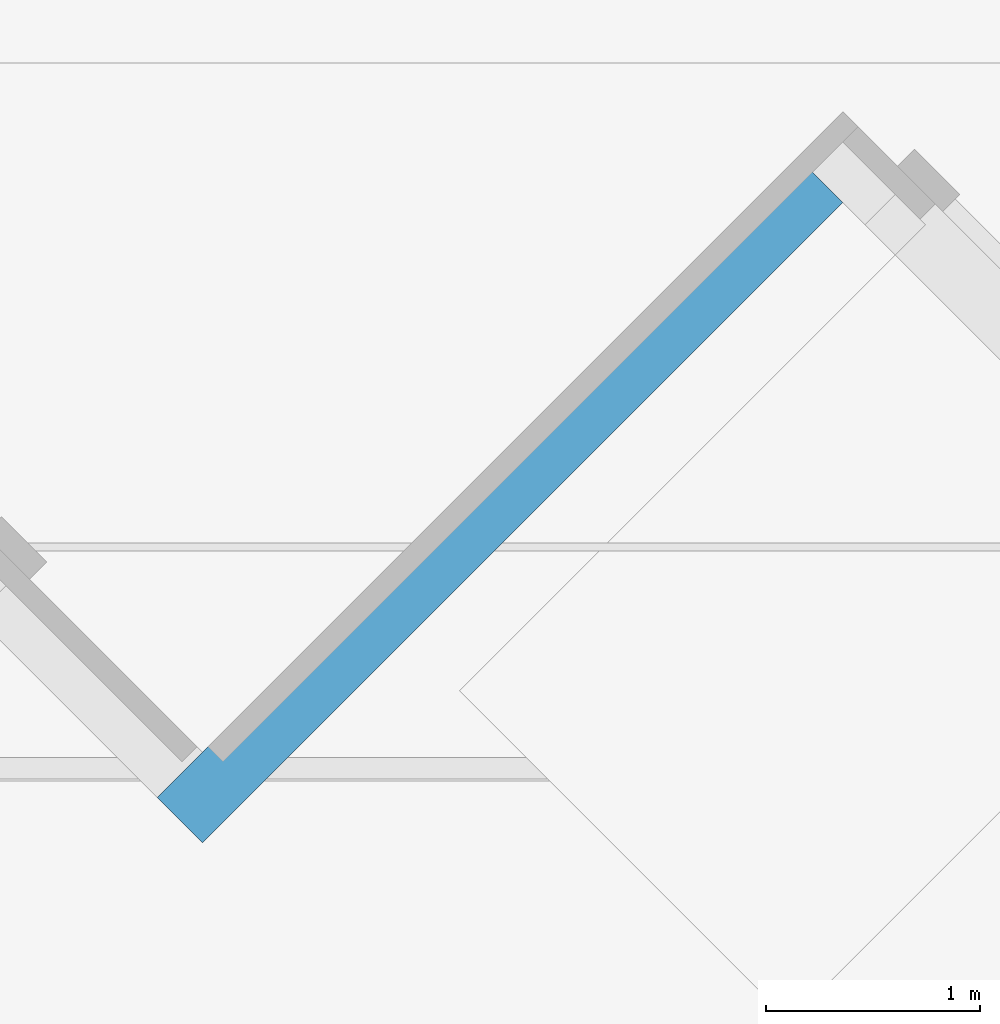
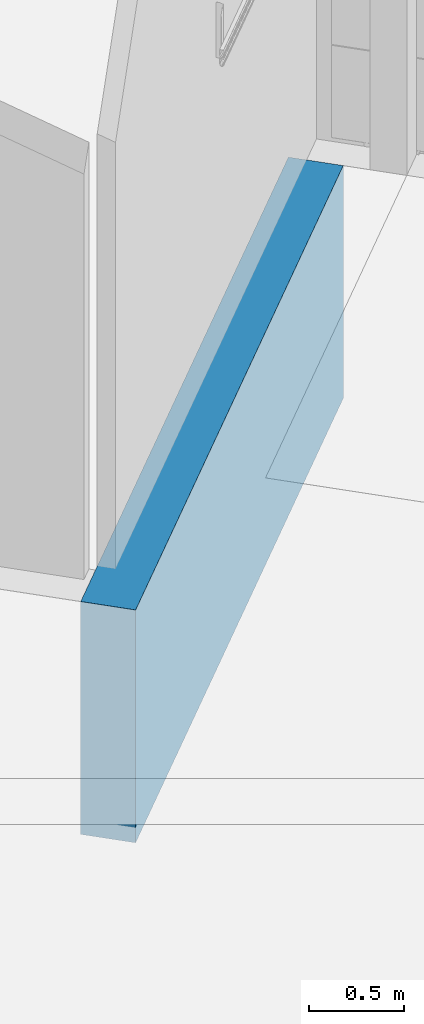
# One storey, part 27 of 64: 1 wall.
"""IFC2X3 building model written with IfcOpenShell, lengths in millimetres."""

from ifc_helpers import new_model, entity, si_unit, converted_unit, derived_unit, direction, frame, frame_2d, origin, place, context, subcontext, project, spatial, rectangle, extrude, material, layer, layer_set, layer_usage, type_object, element, save


model = new_model("IFC2X3")

# Units and contexts
model_context = context("Model", 3, precision=0.01, world=origin(), true_north=direction((4.05803320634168e-15, -1.0)))
body_context = subcontext(model_context, "Body", "Model", "MODEL_VIEW")
ifc_project = project(units=[si_unit("LENGTHUNIT", "METRE", prefix="MILLI"), si_unit("AREAUNIT", "SQUARE_METRE"), si_unit("VOLUMEUNIT", "CUBIC_METRE"), converted_unit("PLANEANGLEUNIT", "DEGREE", entity("IfcRatioMeasure", 0.0174532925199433), si_unit("PLANEANGLEUNIT", "RADIAN"), dimensions=[0, 0, 0, 0, 0, 0, 0]), si_unit("MASSUNIT", "GRAM", prefix="KILO"), derived_unit("MASSDENSITYUNIT", [(si_unit("MASSUNIT", "GRAM", prefix="KILO"), 1), (si_unit("LENGTHUNIT", "METRE"), -3)]), si_unit("TIMEUNIT", "SECOND"), si_unit("FREQUENCYUNIT", "HERTZ"), si_unit("THERMODYNAMICTEMPERATUREUNIT", "DEGREE_CELSIUS"), derived_unit("THERMALTRANSMITTANCEUNIT", [(si_unit("MASSUNIT", "GRAM", prefix="KILO"), 1), (si_unit("THERMODYNAMICTEMPERATUREUNIT", "KELVIN"), -1), (si_unit("TIMEUNIT", "SECOND"), -3)]), derived_unit("VOLUMETRICFLOWRATEUNIT", [(si_unit("LENGTHUNIT", "METRE"), 3), (si_unit("TIMEUNIT", "SECOND"), -1)]), si_unit("ELECTRICCURRENTUNIT", "AMPERE"), si_unit("ELECTRICVOLTAGEUNIT", "VOLT"), si_unit("POWERUNIT", "WATT"), si_unit("FORCEUNIT", "NEWTON", prefix="KILO"), si_unit("ILLUMINANCEUNIT", "LUX"), si_unit("LUMINOUSFLUXUNIT", "LUMEN"), si_unit("LUMINOUSINTENSITYUNIT", "CANDELA"), derived_unit("USERDEFINED", [(si_unit("MASSUNIT", "GRAM", prefix="KILO"), -1), (si_unit("LENGTHUNIT", "METRE"), -2), (si_unit("TIMEUNIT", "SECOND"), 3), (si_unit("LUMINOUSFLUXUNIT", "LUMEN"), 1)]), derived_unit("LINEARVELOCITYUNIT", [(si_unit("LENGTHUNIT", "METRE"), 1), (si_unit("TIMEUNIT", "SECOND"), -1)]), si_unit("PRESSUREUNIT", "PASCAL"), derived_unit("USERDEFINED", [(si_unit("LENGTHUNIT", "METRE"), -2), (si_unit("MASSUNIT", "GRAM", prefix="KILO"), 1), (si_unit("TIMEUNIT", "SECOND"), -2)])], contexts=[model_context])

# Site, building, storey
site_placement = place(None, frame((927466.849349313, 583801.882853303, 0.0), z_axis=(0.0, 0.0, 1.0), x_axis=(-1.0, 0.0, 0.0)))
site = spatial("IfcSite", under=ifc_project, at=site_placement, Name="Surface", CompositionType="ELEMENT")
building_placement = place(site_placement, origin())
building = spatial("IfcBuilding", under=site, at=building_placement, CompositionType="ELEMENT")
storey_placement = place(building_placement, frame((0.0, 0.0, 44170.0)))
storey = spatial("IfcBuildingStorey", under=building, at=storey_placement, Name="Ground FFL", CompositionType="ELEMENT", Elevation=44170.0)

# Wall
ifc_material = material(Name="conc bund")
ifc_layer = layer(ifc_material, 300.0)
ifc_layer_set = layer_set([ifc_layer], Name="Basic Wall:300 bund wall")
ifc_layer_usage = layer_usage(ifc_layer_set, "AXIS2", "POSITIVE", -150.0)
wall_type = type_object("IfcWallType", Name="Basic Wall:300 bund wall", PredefinedType="STANDARD", material=ifc_layer_set)
wall_placement = place(storey_placement, frame((-59994.4309939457, -33356.124220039, -1500.0), z_axis=(0.0, 0.0, 1.0), x_axis=(0.70710678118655, 0.707106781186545, 0.0)))
element("IfcWallStandardCase", 1, at=wall_placement, inside=storey, type_object=wall_type, material=ifc_layer_usage, Name="Basic Wall:300 bund wall", ObjectType="Basic Wall:300 bund wall", context=body_context, shape_type="SweptSolid", body=[
    extrude(rectangle(XDim=4232.26267936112, YDim=299.999999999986, at=frame_2d((2116.13133968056, -2.51532128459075e-12), x_axis=(-1.0, 0.0))), origin(), (0.0, 0.0, 1.0), 1500.00000000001),
])

save(model, "model.ifc")
